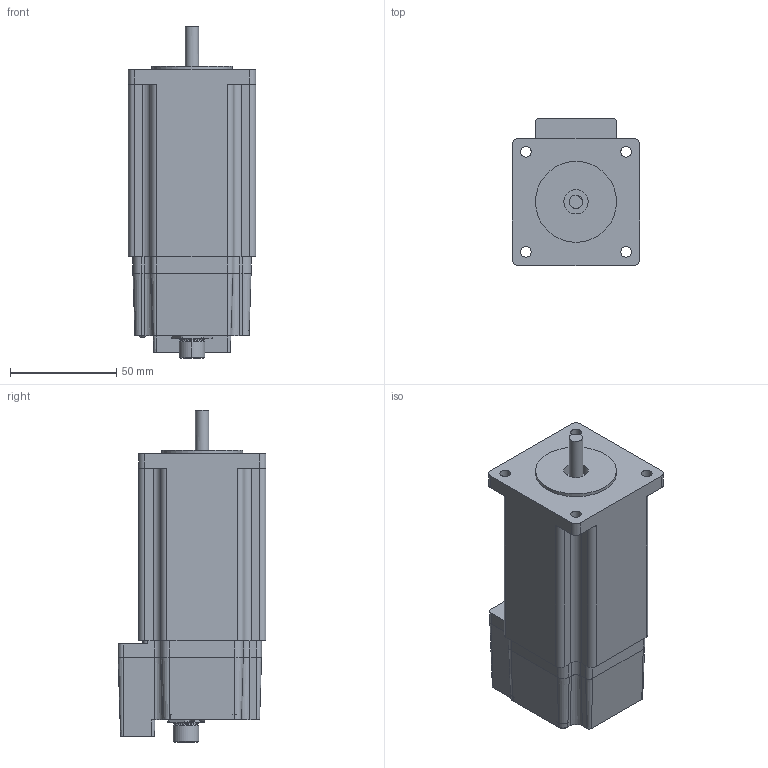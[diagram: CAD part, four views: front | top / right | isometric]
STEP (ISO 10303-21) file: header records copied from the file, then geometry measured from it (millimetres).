
FILE_DESCRIPTION(/* description */ ('Alibre Inc.'),/* implementation_level */ '2;1');
FILE_NAME(/* name */ 'export0',/* time_stamp */ '2016-07-22T11:12:33-04:00',/* author */ (''),/* organization */ (''),/* preprocessor_version */ 'ST-DEVELOPER v14',/* originating_system */ 'Alibre',/* authorisation */ '');
FILE_SCHEMA (('CONFIG_CONTROL_DESIGN'));
Length unit declared in the file: centimetre
Products named in the file (1): ID_1
Bounding box: 60 x 69.62 x 156.33 mm (x, y, z)
Volume: 399244 mm3; surface area: 45007.9 mm2
Topology: 3 solids, 19 shells, 531 faces, 1255 edges, 818 vertices
Faces by surface type: plane 200, cylinder 191, bspline 64, cone 44, torus 28, sphere 4
Full cylindrical faces by diameter (mm): 1.1 x8, 2.433 x4, 2.87 x4, 2.92 x2, 3.556 x4, 5 x4, 5.44 x4, 6.35 x1, 7.938 x1, 8 x2, 11.4 x2, 12.7 x1, 26 x1, 38.1 x1
Entity records: 15815 total; most frequent: CARTESIAN_POINT 4223, ORIENTED_EDGE 2350, DIRECTION 2178, EDGE_CURVE 1175, AXIS2_PLACEMENT_3D 926, VERTEX_POINT 791, EDGE_LOOP 660, FACE_BOUND 660
